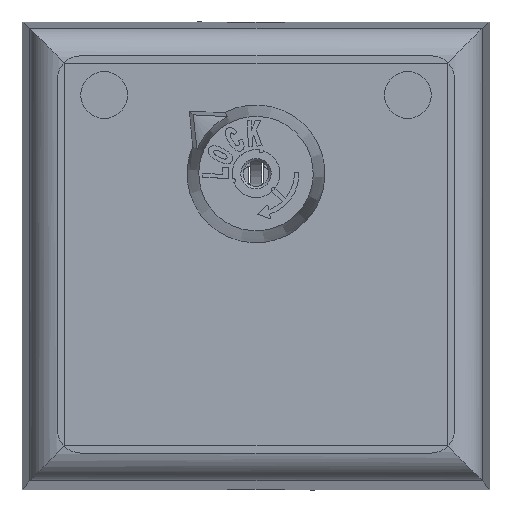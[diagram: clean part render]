
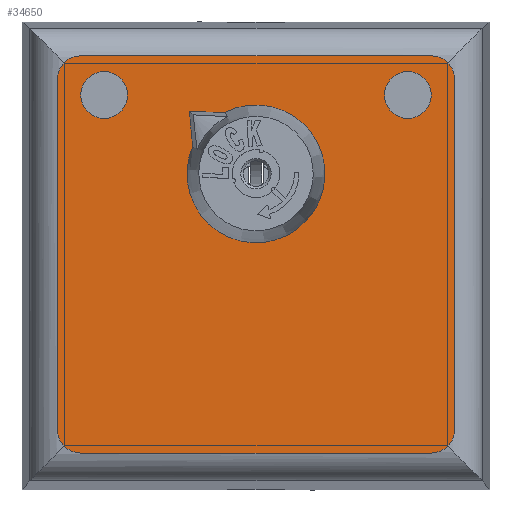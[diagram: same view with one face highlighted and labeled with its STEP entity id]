
A CAD part, top view. The second image highlights one B-rep face of the part: STEP entity #34650.
In plain terms, the highlighted planar face has unit normal (0, 0, 1).
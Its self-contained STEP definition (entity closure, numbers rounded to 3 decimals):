
#34277=CARTESIAN_POINT('',(3.,-6.9,0.001));
#34278=VERTEX_POINT('',#34277);
#34279=CARTESIAN_POINT('',(0.0,-6.9,0.001));
#34280=DIRECTION('',(0.0,0.0,-1.0));
#34281=DIRECTION('',(1.0,0.0,0.0));
#34282=AXIS2_PLACEMENT_3D('',#34279,#34280,#34281);
#34283=CIRCLE('',#34282,3.);
#34284=EDGE_CURVE('',#34278,#34278,#34283,.T.);
#34294=CARTESIAN_POINT('',(-17.0,15.0,0.001));
#34295=VERTEX_POINT('',#34294);
#34296=CARTESIAN_POINT('',(-15.,17.0,0.001));
#34297=VERTEX_POINT('',#34296);
#34298=CARTESIAN_POINT('',(-15.,15.0,0.001));
#34299=DIRECTION('',(0.0,0.0,-1.0));
#34300=DIRECTION('',(-0.707,0.707,0.0));
#34301=AXIS2_PLACEMENT_3D('',#34298,#34299,#34300);
#34302=CIRCLE('',#34301,2.0);
#34303=EDGE_CURVE('',#34295,#34297,#34302,.T.);
#34345=CARTESIAN_POINT('',(-17.0,-15.,0.001));
#34346=VERTEX_POINT('',#34345);
#34353=CARTESIAN_POINT('',(-17.0,-15.0,0.001));
#34354=DIRECTION('',(0.0,1.0,0.0));
#34355=VECTOR('',#34354,30.0);
#34356=LINE('',#34353,#34355);
#34357=EDGE_CURVE('',#34346,#34295,#34356,.T.);
#34451=CARTESIAN_POINT('',(15.0,17.0,0.001));
#34452=VERTEX_POINT('',#34451);
#34453=CARTESIAN_POINT('',(17.0,15.,0.001));
#34454=VERTEX_POINT('',#34453);
#34455=CARTESIAN_POINT('',(15.0,15.,0.001));
#34456=DIRECTION('',(0.0,0.0,-1.0));
#34457=DIRECTION('',(0.707,0.707,0.0));
#34458=AXIS2_PLACEMENT_3D('',#34455,#34456,#34457);
#34459=CIRCLE('',#34458,2.0);
#34460=EDGE_CURVE('',#34452,#34454,#34459,.T.);
#34484=CARTESIAN_POINT('',(17.0,-15.0,0.001));
#34485=VERTEX_POINT('',#34484);
#34486=CARTESIAN_POINT('',(17.0,15.0,0.001));
#34487=DIRECTION('',(0.0,-1.0,0.0));
#34488=VECTOR('',#34487,30.0);
#34489=LINE('',#34486,#34488);
#34490=EDGE_CURVE('',#34454,#34485,#34489,.T.);
#34507=CARTESIAN_POINT('',(15.,-17.0,0.001));
#34508=VERTEX_POINT('',#34507);
#34509=CARTESIAN_POINT('',(15.,-15.0,0.001));
#34510=DIRECTION('',(0.0,0.0,-1.0));
#34511=DIRECTION('',(0.707,-0.707,0.0));
#34512=AXIS2_PLACEMENT_3D('',#34509,#34510,#34511);
#34513=CIRCLE('',#34512,2.0);
#34514=EDGE_CURVE('',#34485,#34508,#34513,.T.);
#34532=CARTESIAN_POINT('',(-15.0,-17.0,0.001));
#34533=VERTEX_POINT('',#34532);
#34534=CARTESIAN_POINT('',(-15.0,-15.,0.001));
#34535=DIRECTION('',(0.0,0.0,-1.0));
#34536=DIRECTION('',(-0.707,-0.707,0.0));
#34537=AXIS2_PLACEMENT_3D('',#34534,#34535,#34536);
#34538=CIRCLE('',#34537,2.0);
#34539=EDGE_CURVE('',#34533,#34346,#34538,.T.);
#34560=CARTESIAN_POINT('',(15.0,-13.65,0.001));
#34561=VERTEX_POINT('',#34560);
#34562=CARTESIAN_POINT('',(13.0,-13.65,0.001));
#34563=DIRECTION('',(0.0,0.0,-1.0));
#34564=DIRECTION('',(1.0,0.0,0.0));
#34565=AXIS2_PLACEMENT_3D('',#34562,#34563,#34564);
#34566=CIRCLE('',#34565,2.0);
#34567=EDGE_CURVE('',#34561,#34561,#34566,.T.);
#34580=CARTESIAN_POINT('',(-11.0,-13.65,0.001));
#34581=VERTEX_POINT('',#34580);
#34582=CARTESIAN_POINT('',(-13.0,-13.65,0.001));
#34583=DIRECTION('',(0.0,0.0,-1.0));
#34584=DIRECTION('',(1.0,0.0,0.0));
#34585=AXIS2_PLACEMENT_3D('',#34582,#34583,#34584);
#34586=CIRCLE('',#34585,2.0);
#34587=EDGE_CURVE('',#34581,#34581,#34586,.T.);
#34598=CARTESIAN_POINT('',(15.0,-17.0,0.001));
#34599=DIRECTION('',(-1.0,0.0,0.0));
#34600=VECTOR('',#34599,30.0);
#34601=LINE('',#34598,#34600);
#34602=EDGE_CURVE('',#34508,#34533,#34601,.T.);
#34615=CARTESIAN_POINT('',(-15.0,17.0,0.001));
#34616=DIRECTION('',(1.0,0.0,0.0));
#34617=VECTOR('',#34616,30.0);
#34618=LINE('',#34615,#34617);
#34619=EDGE_CURVE('',#34297,#34452,#34618,.T.);
#34626=CARTESIAN_POINT('',(0.0,0.,0.001));
#34627=DIRECTION('',(0.0,0.0,1.0));
#34628=DIRECTION('',(1.0,0.0,0.0));
#34629=AXIS2_PLACEMENT_3D('',#34626,#34627,#34628);
#34630=PLANE('',#34629);
#34631=ORIENTED_EDGE('',*,*,#34303,.F.);
#34632=ORIENTED_EDGE('',*,*,#34357,.F.);
#34633=ORIENTED_EDGE('',*,*,#34539,.F.);
#34634=ORIENTED_EDGE('',*,*,#34602,.F.);
#34635=ORIENTED_EDGE('',*,*,#34514,.F.);
#34636=ORIENTED_EDGE('',*,*,#34490,.F.);
#34637=ORIENTED_EDGE('',*,*,#34460,.F.);
#34638=ORIENTED_EDGE('',*,*,#34619,.F.);
#34639=EDGE_LOOP('',(#34631,#34632,#34633,#34634,#34635,#34636,#34637,#34638));
#34640=FACE_OUTER_BOUND('',#34639,.T.);
#34641=ORIENTED_EDGE('',*,*,#34284,.T.);
#34642=EDGE_LOOP('',(#34641));
#34643=FACE_BOUND('',#34642,.T.);
#34644=ORIENTED_EDGE('',*,*,#34567,.T.);
#34645=EDGE_LOOP('',(#34644));
#34646=FACE_BOUND('',#34645,.T.);
#34647=ORIENTED_EDGE('',*,*,#34587,.T.);
#34648=EDGE_LOOP('',(#34647));
#34649=FACE_BOUND('',#34648,.T.);
#34650=ADVANCED_FACE('',(#34640,#34643,#34646,#34649),#34630,.T.);
